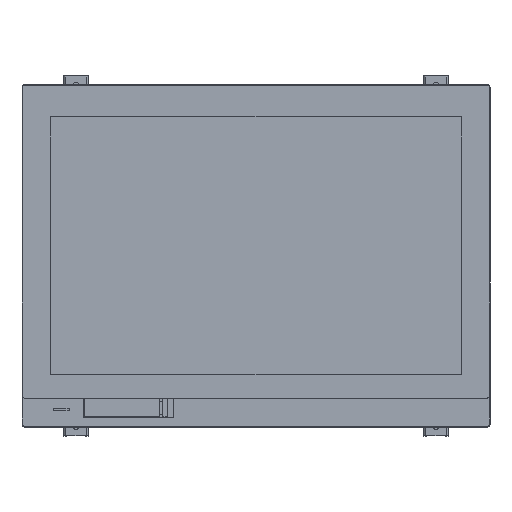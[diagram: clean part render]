
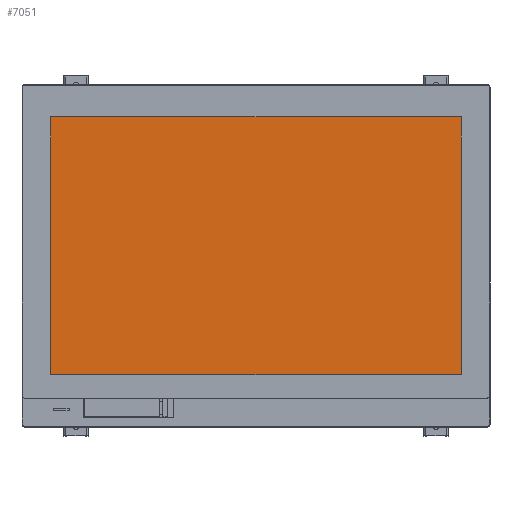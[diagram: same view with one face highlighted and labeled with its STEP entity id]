
A CAD part, top view. The second image highlights one B-rep face of the part: STEP entity #7051.
In plain terms, the highlighted planar face has unit normal (0, 0, 1).
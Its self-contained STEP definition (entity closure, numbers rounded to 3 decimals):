
#63=DIRECTION('',(0.,-1.,0.));
#64=VECTOR('',#63,164.6);
#65=CARTESIAN_POINT('',(-131.26,82.3,5.9));
#66=LINE('',#65,#64);
#67=DIRECTION('',(-1.,0.,0.));
#68=VECTOR('',#67,262.52);
#69=CARTESIAN_POINT('',(131.26,82.3,5.9));
#70=LINE('',#69,#68);
#71=DIRECTION('',(0.,1.,0.));
#72=VECTOR('',#71,164.6);
#73=CARTESIAN_POINT('',(131.26,-82.3,5.9));
#74=LINE('',#73,#72);
#75=DIRECTION('',(1.,0.,0.));
#76=VECTOR('',#75,262.52);
#77=CARTESIAN_POINT('',(-131.26,-82.3,5.9));
#78=LINE('',#77,#76);
#5471=CARTESIAN_POINT('',(-131.26,-82.3,5.9));
#5472=VERTEX_POINT('',#5471);
#5473=CARTESIAN_POINT('',(-131.26,82.3,5.9));
#5474=VERTEX_POINT('',#5473);
#5475=CARTESIAN_POINT('',(131.26,82.3,5.9));
#5476=VERTEX_POINT('',#5475);
#5477=CARTESIAN_POINT('',(131.26,-82.3,5.9));
#5478=VERTEX_POINT('',#5477);
#7040=CARTESIAN_POINT('',(0.,0.,5.9));
#7041=DIRECTION('',(0.,0.,1.));
#7042=DIRECTION('',(1.,0.,0.));
#7043=AXIS2_PLACEMENT_3D('',#7040,#7041,#7042);
#7044=PLANE('',#7043);
#7045=ORIENTED_EDGE('',*,*,#6992,.F.);
#7046=ORIENTED_EDGE('',*,*,#7007,.F.);
#7047=ORIENTED_EDGE('',*,*,#7021,.F.);
#7048=ORIENTED_EDGE('',*,*,#7034,.F.);
#7049=EDGE_LOOP('',(#7045,#7046,#7047,#7048));
#7050=FACE_OUTER_BOUND('',#7049,.F.);
#7051=ADVANCED_FACE('',(#7050),#7044,.T.);
#6992=EDGE_CURVE('',#5474,#5472,#66,.T.);
#7007=EDGE_CURVE('',#5476,#5474,#70,.T.);
#7021=EDGE_CURVE('',#5478,#5476,#74,.T.);
#7034=EDGE_CURVE('',#5472,#5478,#78,.T.);
